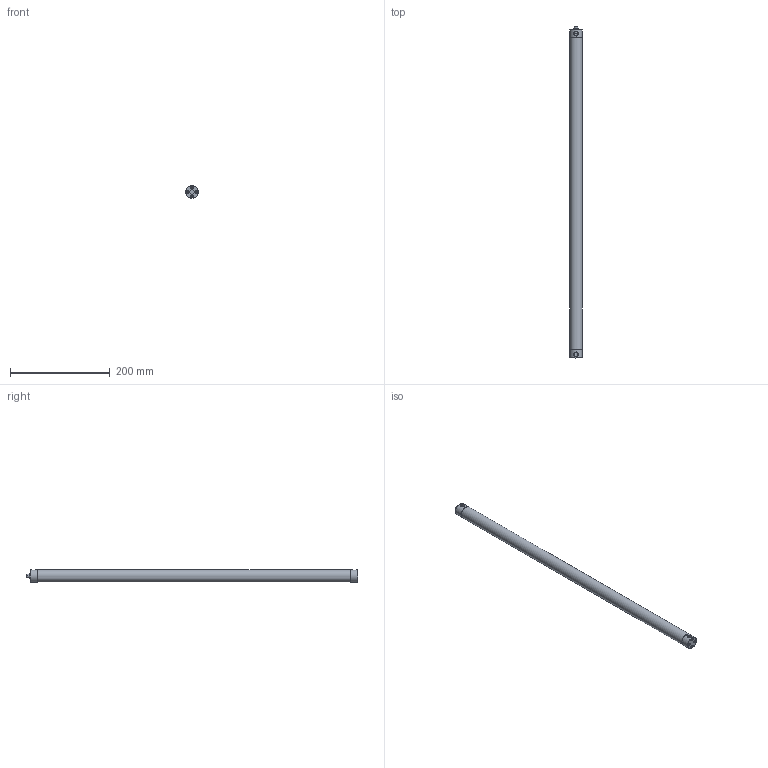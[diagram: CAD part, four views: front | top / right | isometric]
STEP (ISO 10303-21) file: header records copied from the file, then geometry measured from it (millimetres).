
FILE_DESCRIPTION (( 'STEP AP214' ), '1' );
FILE_NAME ('Slimbar 25 LED.STEP', '2011-05-26T17:53:47', ( 'JRLEDS' ), ( '' ), 'SwSTEP 2.0', 'SolidWorks 2010', '' );
FILE_SCHEMA (( 'AUTOMOTIVE_DESIGN' ));
Length unit declared in the file: millimetre
Products named in the file (7): Slimbar 25 LED; Profilé tube 625mm; Embout non percé; Diffusant 625mm; Connecteur M8; Circuit 5 XPE 10mm
Assembly tree (10 placements, depth 2):
  Slimbar 25 LED
    Diffusant 625mm
    Profilé tube 625mm
    Circuit 5 XPE 10mm  x5
    Embout non percé
    Embout non percé
    Connecteur M8
Bounding box: 25.01 x 665 x 25.02 mm (x, y, z)
Volume: 171656 mm3; surface area: 154358.2 mm2
Topology: 10 solids, 10 shells, 311 faces, 759 edges, 504 vertices
Faces by surface type: plane 174, cylinder 124, cone 13
Entity records: 6702 total; most frequent: CARTESIAN_POINT 1545, DIRECTION 993, ORIENTED_EDGE 942, EDGE_CURVE 471, AXIS2_PLACEMENT_3D 370, VERTEX_POINT 312, LINE 253, VECTOR 253
